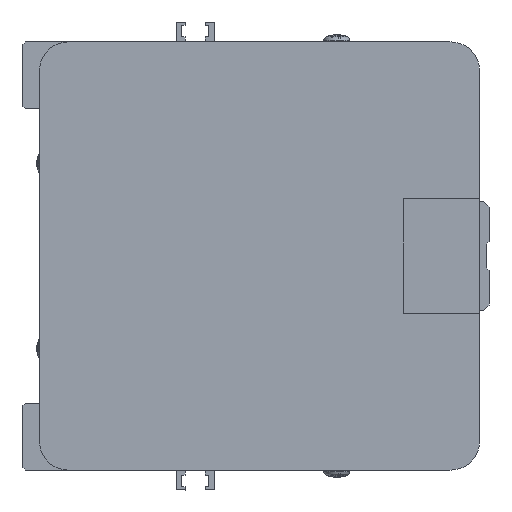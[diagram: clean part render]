
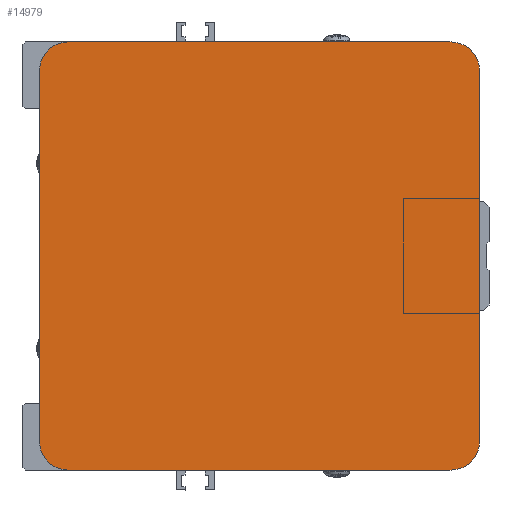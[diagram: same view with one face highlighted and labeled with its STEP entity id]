
A CAD part, left-side view. The second image highlights one B-rep face of the part: STEP entity #14979.
In plain terms, the highlighted planar face has unit normal (-1, 0, 0) as drawn and (0, 0, -1) by its records, which use the part's own axes.
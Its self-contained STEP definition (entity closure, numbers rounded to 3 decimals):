
#1171=CIRCLE('',#15963,6.);
#1173=CIRCLE('',#15968,6.);
#1174=CIRCLE('',#15974,6.);
#1175=CIRCLE('',#15976,6.);
#2070=FACE_OUTER_BOUND('',#2954,.T.);
#2954=EDGE_LOOP('',(#10464,#10465,#10466,#10467,#10468,#10469,#10470,#10471));
#4089=LINE('',#21446,#5334);
#4107=LINE('',#21485,#5352);
#4111=LINE('',#21497,#5356);
#4113=LINE('',#21504,#5358);
#5334=VECTOR('',#17527,78.);
#5352=VECTOR('',#17561,80.5);
#5356=VECTOR('',#17575,80.5);
#5358=VECTOR('',#17583,78.);
#6568=VERTEX_POINT('',#21440);
#6569=VERTEX_POINT('',#21444);
#6581=VERTEX_POINT('',#21482);
#6582=VERTEX_POINT('',#21484);
#6584=VERTEX_POINT('',#21493);
#6585=VERTEX_POINT('',#21495);
#6586=VERTEX_POINT('',#21499);
#6587=VERTEX_POINT('',#21503);
#8100=EDGE_CURVE('',#6569,#6568,#4089,.T.);
#8120=EDGE_CURVE('',#6581,#6582,#4107,.T.);
#8122=EDGE_CURVE('',#6582,#6569,#1171,.T.);
#8126=EDGE_CURVE('',#6585,#6584,#4111,.T.);
#8127=EDGE_CURVE('',#6584,#6586,#1173,.T.);
#8129=EDGE_CURVE('',#6586,#6587,#4113,.T.);
#8145=EDGE_CURVE('',#6587,#6581,#1174,.T.);
#8146=EDGE_CURVE('',#6568,#6585,#1175,.T.);
#10464=ORIENTED_EDGE('',*,*,#8127,.F.);
#10465=ORIENTED_EDGE('',*,*,#8126,.F.);
#10466=ORIENTED_EDGE('',*,*,#8146,.F.);
#10467=ORIENTED_EDGE('',*,*,#8100,.F.);
#10468=ORIENTED_EDGE('',*,*,#8122,.F.);
#10469=ORIENTED_EDGE('',*,*,#8120,.F.);
#10470=ORIENTED_EDGE('',*,*,#8145,.F.);
#10471=ORIENTED_EDGE('',*,*,#8129,.F.);
#14460=PLANE('',#15987);
#14979=ADVANCED_FACE('',(#2070),#14460,.T.);
#15963=AXIS2_PLACEMENT_3D('',#21488,#17565,#17566);
#15968=AXIS2_PLACEMENT_3D('',#21500,#17578,#17579);
#15974=AXIS2_PLACEMENT_3D('',#21532,#17607,#17608);
#15976=AXIS2_PLACEMENT_3D('',#21534,#17611,#17612);
#15987=AXIS2_PLACEMENT_3D('',#21553,#17638,#17639);
#17527=DIRECTION('',(1.,0.,0.));
#17561=DIRECTION('',(0.,-1.,0.));
#17565=DIRECTION('center_axis',(0.,0.,
1.));
#17566=DIRECTION('ref_axis',(-1.,0.,0.));
#17575=DIRECTION('',(0.,1.,0.));
#17578=DIRECTION('center_axis',(0.,0.,
1.));
#17579=DIRECTION('ref_axis',(1.,0.,0.));
#17583=DIRECTION('',(-1.,0.,0.));
#17607=DIRECTION('center_axis',(0.,0.,
1.));
#17608=DIRECTION('ref_axis',(0.,1.,0.));
#17611=DIRECTION('center_axis',(0.,0.,
1.));
#17612=DIRECTION('ref_axis',(0.,-1.,0.));
#17638=DIRECTION('center_axis',(0.,0.,
-1.));
#17639=DIRECTION('ref_axis',(0.545,-0.839,0.));
#21440=CARTESIAN_POINT('',(88.204,2.,-436.));
#21444=CARTESIAN_POINT('',(10.204,2.,-436.));
#21446=CARTESIAN_POINT('',(10.204,2.,-436.));
#21482=CARTESIAN_POINT('',(4.204,88.5,-436.));
#21484=CARTESIAN_POINT('',(4.204,8.,-436.));
#21485=CARTESIAN_POINT('',(4.204,88.5,-436.));
#21488=CARTESIAN_POINT('Origin',(10.204,8.,-436.));
#21493=CARTESIAN_POINT('',(94.204,88.5,-436.));
#21495=CARTESIAN_POINT('',(94.204,8.,-436.));
#21497=CARTESIAN_POINT('',(94.204,8.,-436.));
#21499=CARTESIAN_POINT('',(88.204,94.5,-436.));
#21500=CARTESIAN_POINT('Origin',(88.204,88.5,-436.));
#21503=CARTESIAN_POINT('',(10.204,94.5,-436.));
#21504=CARTESIAN_POINT('',(88.204,94.5,-436.));
#21532=CARTESIAN_POINT('Origin',(10.204,88.5,-436.));
#21534=CARTESIAN_POINT('Origin',(88.204,8.,-436.));
#21553=CARTESIAN_POINT('Origin',(49.204,26.,-436.));
